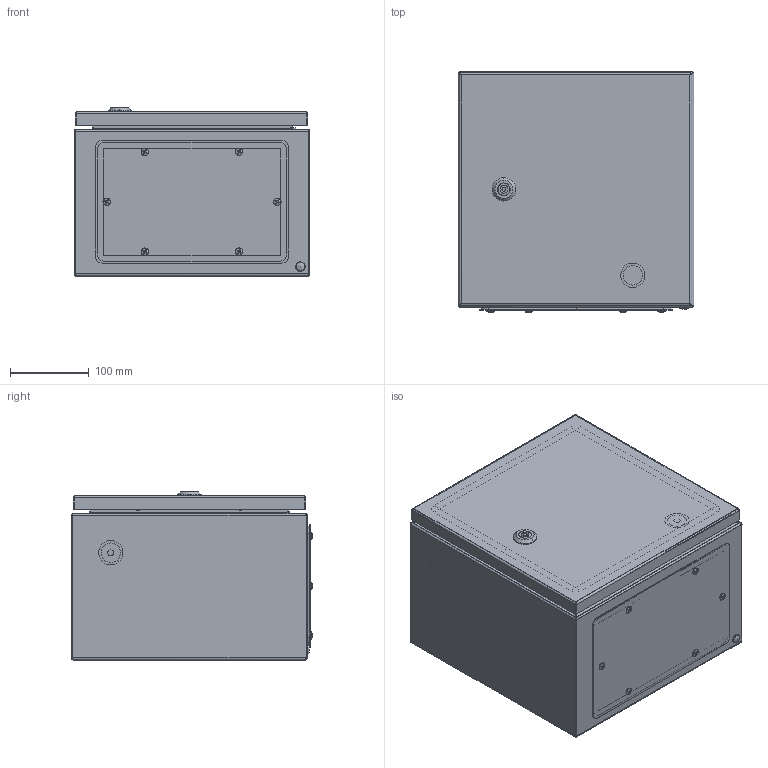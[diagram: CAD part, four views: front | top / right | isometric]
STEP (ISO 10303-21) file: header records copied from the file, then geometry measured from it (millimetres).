
FILE_DESCRIPTION (( 'STEP AP214' ), '1' );
FILE_NAME ('T-CCS 30.30.21.STEP', '2024-03-11T09:29:02', ( '' ), ( '' ), 'SwSTEP 2.0', 'SolidWorks 2019', '' );
FILE_SCHEMA (( 'AUTOMOTIVE_DESIGN' ));
Length unit declared in the file: millimetre
Products named in the file (1): T-CCS 30.30.21
Bounding box: 300 x 306.62 x 213.95 mm (x, y, z)
Volume: 1422058.9 mm3; surface area: 1440869.7 mm2
Topology: 70 solids, 70 shells, 3290 faces, 8330 edges, 5260 vertices
Faces by surface type: plane 1723, cylinder 1013, cone 276, bspline 140, torus 103, sphere 35
Entity records: 163580 total; most frequent: CARTESIAN_POINT 49156, ORIENTED_EDGE 16566, DIRECTION 15625, EDGE_CURVE 8283, AXIS2_PLACEMENT_3D 5328, VERTEX_POINT 5258, VECTOR 4969, LINE 4969
